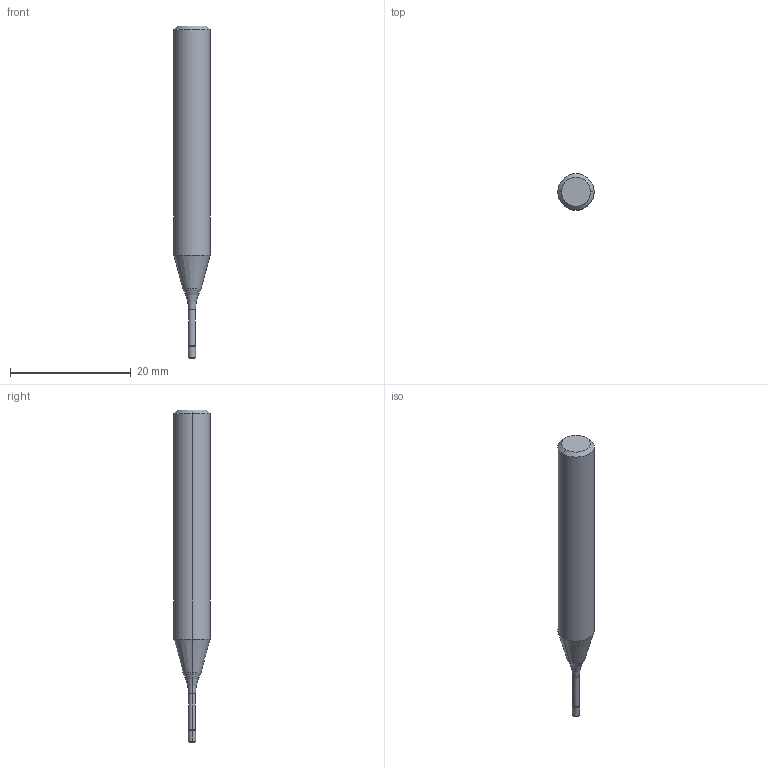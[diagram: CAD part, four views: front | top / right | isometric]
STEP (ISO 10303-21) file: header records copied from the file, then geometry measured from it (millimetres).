
FILE_DESCRIPTION (( 'STEP AP214' ), '1' );
FILE_NAME ('558.120.12_3D-model.step', '2022-02-18T14:57:38', ( '' ), ( '' ), 'SwSTEP 2.0', 'SolidWorks 2020', '' );
FILE_SCHEMA (( 'AUTOMOTIVE_DESIGN' ));
Length unit declared in the file: millimetre
Products named in the file (3): CUT-3D^Baugr92; NOCUT-3D^Baugr92; 558.120.12_3D-model
Assembly tree (2 placements, depth 2):
  558.120.12_3D-model
    CUT-3D^Baugr92
    NOCUT-3D^Baugr92
Bounding box: 6 x 6 x 55 mm (x, y, z)
Volume: 1179.6 mm3; surface area: 870.9 mm2
Topology: 2 solids, 2 shells, 20 faces, 36 edges, 20 vertices
Faces by surface type: cylinder 6, cone 6, torus 4, plane 4
Entity records: 610 total; most frequent: DIRECTION 116, CARTESIAN_POINT 84, ORIENTED_EDGE 72, AXIS2_PLACEMENT_3D 52, EDGE_CURVE 36, CIRCLE 24, EDGE_LOOP 20, FACE_OUTER_BOUND 20
